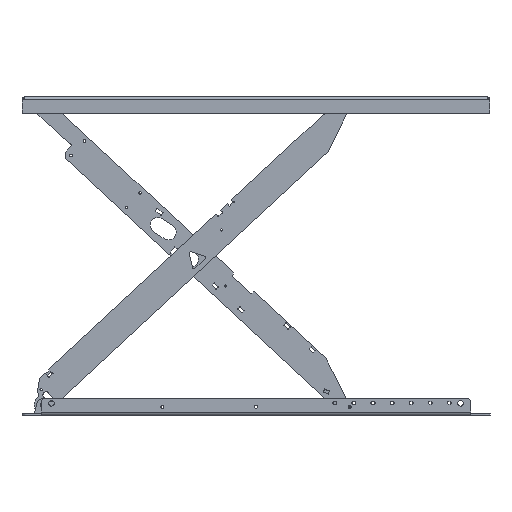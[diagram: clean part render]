
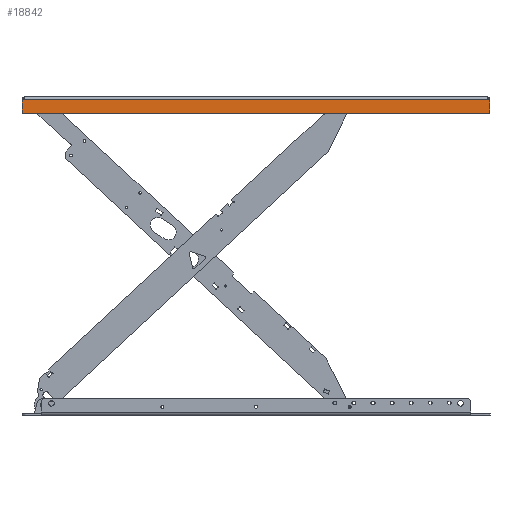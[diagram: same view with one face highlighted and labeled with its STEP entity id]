
A CAD part, left-side view. The second image highlights one B-rep face of the part: STEP entity #18842.
In plain terms, the highlighted planar face has unit normal (-1, 0, 0) as drawn and (0, -1, 0) by its records, which use the part's own axes.
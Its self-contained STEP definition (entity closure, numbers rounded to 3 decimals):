
#1399=CIRCLE('',#20718,1.);
#1407=CIRCLE('',#20728,38.539);
#1413=CIRCLE('',#20738,1.);
#1414=CIRCLE('',#20740,1.);
#1415=CIRCLE('',#20743,1.);
#1416=CIRCLE('',#20744,38.539);
#1417=CIRCLE('',#20745,1.);
#1418=CIRCLE('',#20746,1.);
#2924=FACE_OUTER_BOUND('',#4108,.T.);
#4108=EDGE_LOOP('',(#16076,#16077,#16078,#16079,#16080,#16081,#16082,#16083,
#16084,#16085,#16086,#16087,#16088,#16089,#16090,#16091));
#5684=LINE('',#31179,#7286);
#5686=LINE('',#31183,#7288);
#5687=LINE('',#31185,#7289);
#5688=LINE('',#31187,#7290);
#5689=LINE('',#31189,#7291);
#5690=LINE('',#31191,#7292);
#5691=LINE('',#31199,#7293);
#5692=LINE('',#31201,#7294);
#7286=VECTOR('',#25538,10.);
#7288=VECTOR('',#25542,10.);
#7289=VECTOR('',#25543,10.);
#7290=VECTOR('',#25544,10.);
#7291=VECTOR('',#25545,10.);
#7292=VECTOR('',#25546,10.);
#7293=VECTOR('',#25553,10.);
#7294=VECTOR('',#25556,10.);
#9000=VERTEX_POINT('',#31103);
#9001=VERTEX_POINT('',#31105);
#9016=VERTEX_POINT('',#31139);
#9026=VERTEX_POINT('',#31168);
#9027=VERTEX_POINT('',#31172);
#9028=VERTEX_POINT('',#31173);
#9029=VERTEX_POINT('',#31178);
#9030=VERTEX_POINT('',#31182);
#9031=VERTEX_POINT('',#31184);
#9032=VERTEX_POINT('',#31186);
#9033=VERTEX_POINT('',#31188);
#9034=VERTEX_POINT('',#31190);
#9035=VERTEX_POINT('',#31192);
#9036=VERTEX_POINT('',#31194);
#9037=VERTEX_POINT('',#31196);
#9038=VERTEX_POINT('',#31198);
#11470=EDGE_CURVE('',#9000,#9001,#1399,.T.);
#11487=EDGE_CURVE('',#9016,#9001,#1407,.T.);
#11502=EDGE_CURVE('',#9016,#9026,#1413,.T.);
#11504=EDGE_CURVE('',#9027,#9028,#1414,.T.);
#11507=EDGE_CURVE('',#9028,#9029,#5684,.T.);
#11509=EDGE_CURVE('',#9000,#9030,#5686,.T.);
#11510=EDGE_CURVE('',#9030,#9031,#5687,.T.);
#11511=EDGE_CURVE('',#9031,#9032,#5688,.T.);
#11512=EDGE_CURVE('',#9032,#9033,#5689,.T.);
#11513=EDGE_CURVE('',#9033,#9034,#5690,.T.);
#11514=EDGE_CURVE('',#9035,#9034,#1415,.T.);
#11515=EDGE_CURVE('',#9035,#9036,#1416,.T.);
#11516=EDGE_CURVE('',#9037,#9036,#1417,.T.);
#11517=EDGE_CURVE('',#9037,#9038,#5691,.T.);
#11518=EDGE_CURVE('',#9029,#9038,#1418,.T.);
#11519=EDGE_CURVE('',#9027,#9026,#5692,.T.);
#16076=ORIENTED_EDGE('',*,*,#11470,.F.);
#16077=ORIENTED_EDGE('',*,*,#11509,.T.);
#16078=ORIENTED_EDGE('',*,*,#11510,.T.);
#16079=ORIENTED_EDGE('',*,*,#11511,.T.);
#16080=ORIENTED_EDGE('',*,*,#11512,.T.);
#16081=ORIENTED_EDGE('',*,*,#11513,.T.);
#16082=ORIENTED_EDGE('',*,*,#11514,.F.);
#16083=ORIENTED_EDGE('',*,*,#11515,.T.);
#16084=ORIENTED_EDGE('',*,*,#11516,.F.);
#16085=ORIENTED_EDGE('',*,*,#11517,.T.);
#16086=ORIENTED_EDGE('',*,*,#11518,.F.);
#16087=ORIENTED_EDGE('',*,*,#11507,.F.);
#16088=ORIENTED_EDGE('',*,*,#11504,.F.);
#16089=ORIENTED_EDGE('',*,*,#11519,.T.);
#16090=ORIENTED_EDGE('',*,*,#11502,.F.);
#16091=ORIENTED_EDGE('',*,*,#11487,.T.);
#18043=PLANE('',#20742);
#18842=ADVANCED_FACE('',(#2924),#18043,.F.);
#20718=AXIS2_PLACEMENT_3D('',#31106,#25469,#25470);
#20728=AXIS2_PLACEMENT_3D('',#31140,#25498,#25499);
#20738=AXIS2_PLACEMENT_3D('',#31169,#25527,#25528);
#20740=AXIS2_PLACEMENT_3D('',#31174,#25532,#25533);
#20742=AXIS2_PLACEMENT_3D('',#31181,#25540,#25541);
#20743=AXIS2_PLACEMENT_3D('',#31193,#25547,#25548);
#20744=AXIS2_PLACEMENT_3D('',#31195,#25549,#25550);
#20745=AXIS2_PLACEMENT_3D('',#31197,#25551,#25552);
#20746=AXIS2_PLACEMENT_3D('',#31200,#25554,#25555);
#25469=DIRECTION('center_axis',(0.,1.,0.));
#25470=DIRECTION('ref_axis',(-0.992,0.,0.129));
#25498=DIRECTION('center_axis',(0.,1.,0.));
#25499=DIRECTION('ref_axis',(0.966,0.,-0.259));
#25527=DIRECTION('center_axis',(0.,1.,0.));
#25528=DIRECTION('ref_axis',(-0.992,0.,-0.129));
#25532=DIRECTION('center_axis',(0.,1.,0.));
#25533=DIRECTION('ref_axis',(-0.707,0.,0.707));
#25538=DIRECTION('',(1.,0.,0.));
#25540=DIRECTION('center_axis',(0.,1.,0.));
#25541=DIRECTION('ref_axis',(1.,0.,0.));
#25542=DIRECTION('',(0.,0.,-1.));
#25543=DIRECTION('',(0.856,0.,-0.517));
#25544=DIRECTION('',(1.,0.,0.));
#25545=DIRECTION('',(0.856,0.,0.517));
#25546=DIRECTION('',(0.,0.,1.));
#25547=DIRECTION('center_axis',(0.,1.,0.));
#25548=DIRECTION('ref_axis',(0.992,0.,0.129));
#25549=DIRECTION('center_axis',(0.,1.,0.));
#25550=DIRECTION('ref_axis',(-0.966,0.,-0.259));
#25551=DIRECTION('center_axis',(0.,1.,0.));
#25552=DIRECTION('ref_axis',(0.992,0.,-0.129));
#25553=DIRECTION('',(0.,0.,1.));
#25554=DIRECTION('center_axis',(0.,1.,0.));
#25555=DIRECTION('ref_axis',(0.707,0.,0.707));
#25556=DIRECTION('',(0.,0.,-1.));
#31103=CARTESIAN_POINT('',(-674.99,-635.,12.055));
#31105=CARTESIAN_POINT('',(-674.957,-635.,12.311));
#31106=CARTESIAN_POINT('Origin',(-673.99,-635.,12.055));
#31139=CARTESIAN_POINT('',(-674.957,-635.,32.061));
#31140=CARTESIAN_POINT('Origin',(-712.209,-635.,22.186));
#31168=CARTESIAN_POINT('',(-674.99,-635.,32.317));
#31169=CARTESIAN_POINT('Origin',(-673.99,-635.,32.317));
#31172=CARTESIAN_POINT('',(-674.99,-635.,49.));
#31173=CARTESIAN_POINT('',(-673.99,-635.,50.));
#31174=CARTESIAN_POINT('Origin',(-673.99,-635.,49.));
#31178=CARTESIAN_POINT('',(673.99,-635.,50.));
#31179=CARTESIAN_POINT('',(-675.,-635.,50.));
#31181=CARTESIAN_POINT('Origin',(0.,-635.,25.016));
#31182=CARTESIAN_POINT('',(-674.99,-635.,10.58));
#31183=CARTESIAN_POINT('',(-674.99,-635.,17.798));
#31184=CARTESIAN_POINT('',(-674.03,-635.,10.));
#31185=CARTESIAN_POINT('',(-430.386,-635.,-137.121));
#31186=CARTESIAN_POINT('',(674.03,-635.,10.));
#31187=CARTESIAN_POINT('',(0.,-635.,10.));
#31188=CARTESIAN_POINT('',(674.99,-635.,10.58));
#31189=CARTESIAN_POINT('',(430.386,-635.,-137.121));
#31190=CARTESIAN_POINT('',(674.99,-635.,12.055));
#31191=CARTESIAN_POINT('',(674.99,-635.,17.798));
#31192=CARTESIAN_POINT('',(674.957,-635.,12.311));
#31193=CARTESIAN_POINT('Origin',(673.99,-635.,12.055));
#31194=CARTESIAN_POINT('',(674.957,-635.,32.061));
#31195=CARTESIAN_POINT('Origin',(712.209,-635.,22.186));
#31196=CARTESIAN_POINT('',(674.99,-635.,32.317));
#31197=CARTESIAN_POINT('Origin',(673.99,-635.,32.317));
#31198=CARTESIAN_POINT('',(674.99,-635.,49.));
#31199=CARTESIAN_POINT('',(674.99,-635.,28.601));
#31200=CARTESIAN_POINT('Origin',(673.99,-635.,49.));
#31201=CARTESIAN_POINT('',(-674.99,-635.,28.601));
